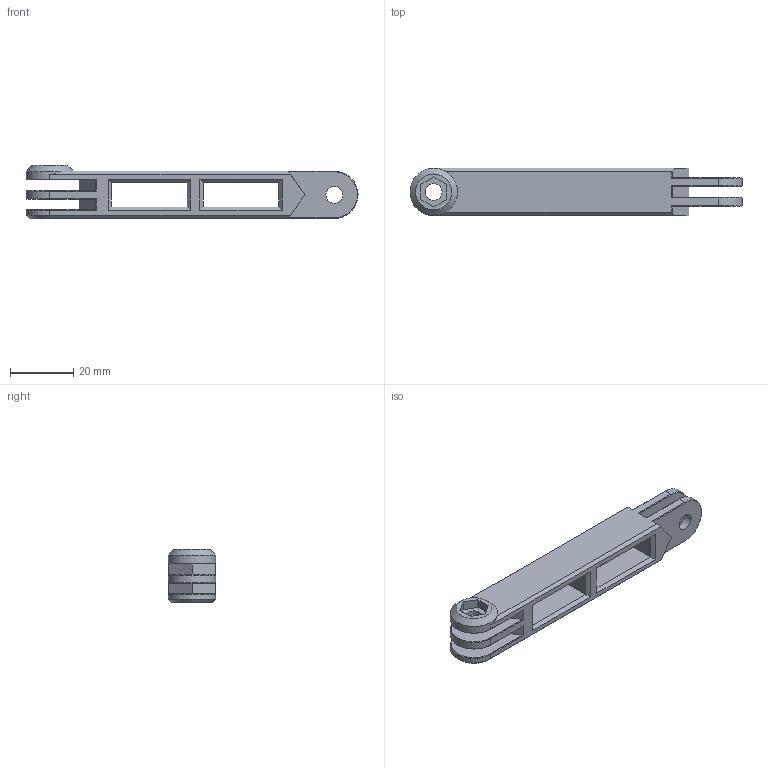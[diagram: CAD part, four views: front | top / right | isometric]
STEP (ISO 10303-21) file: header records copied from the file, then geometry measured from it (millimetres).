
FILE_DESCRIPTION(/* description */ ('STEP AP214'),/* implementation_level */ '2;1');
FILE_NAME(/* name */ '60a1cab447515311da46b77e',/* time_stamp */ '2021-05-17T01:45:25+00:00',/* author */ (''),/* organization */ (''),/* preprocessor_version */ 'ST-DEVELOPER v18.1',/* originating_system */ ' ',/* authorisation */ ' ');
FILE_SCHEMA (('AUTOMOTIVE_DESIGN {1 0 10303 214 3 1 1}'));
Length unit declared in the file: metre
Products named in the file (1): Arm Rotated
Bounding box: 105 x 15 x 16.8 mm (x, y, z)
Volume: 12486.4 mm3; surface area: 8402.4 mm2
Topology: 1 solids, 1 shells, 104 faces, 272 edges, 171 vertices
Faces by surface type: plane 84, cylinder 10, cone 10
Full cylindrical faces by diameter (mm): 5.3 x5
Entity records: 3095 total; most frequent: CARTESIAN_POINT 530, ORIENTED_EDGE 520, DIRECTION 503, EDGE_CURVE 260, LINE 227, VECTOR 227, VERTEX_POINT 165, AXIS2_PLACEMENT_3D 138
